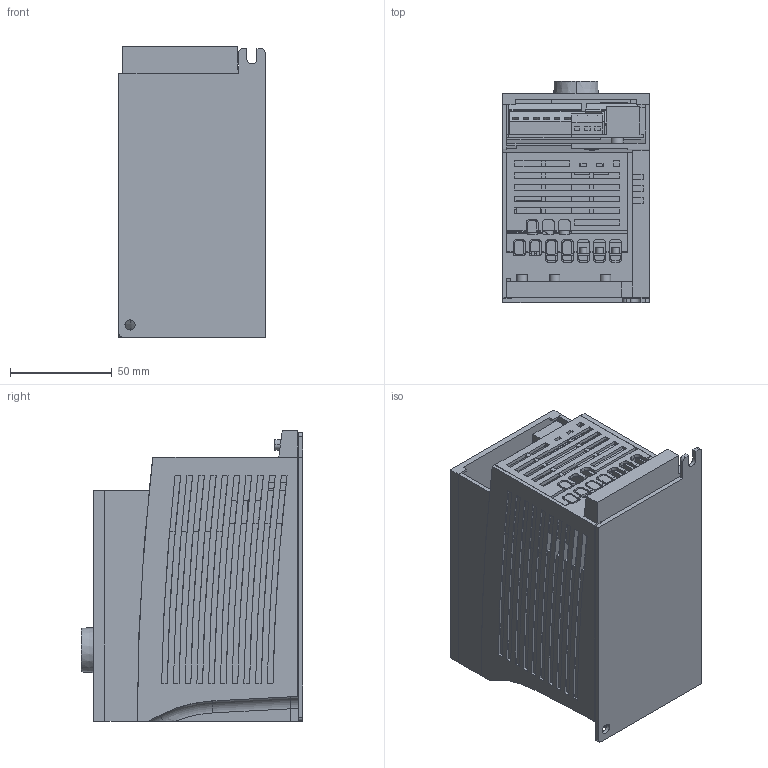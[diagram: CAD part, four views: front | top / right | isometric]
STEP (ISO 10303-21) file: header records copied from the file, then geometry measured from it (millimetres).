
FILE_DESCRIPTION(('STEP AP242'),'1');
FILE_NAME('atv320u02m3c.stp','2019-10-29T09:05:05',('TraceParts'),('TraceParts S.A.'),'Spatial InterOp 3D',' ',' ');
FILE_SCHEMA(('AP242_MANAGED_MODEL_BASED_3D_ENGINEERING_MIM_LF {1 0 10303 442 1 1 4}'));
Length unit declared in the file: millimetre
Products named in the file (1): atv320u02m3c_1
Bounding box: 72 x 109.06 x 142.95 mm (x, y, z)
Volume: 796086.9 mm3; surface area: 167990.8 mm2
Topology: 15 solids, 15 shells, 1424 faces, 3906 edges, 2596 vertices
Faces by surface type: plane 1173, cylinder 248, cone 2, torus 1
Entity records: 45163 total; most frequent: CARTESIAN_POINT 8150, ORIENTED_EDGE 7812, DIRECTION 7359, EDGE_CURVE 3906, LINE 3255, VECTOR 3255, VERTEX_POINT 2596, AXIS2_PLACEMENT_3D 2052
